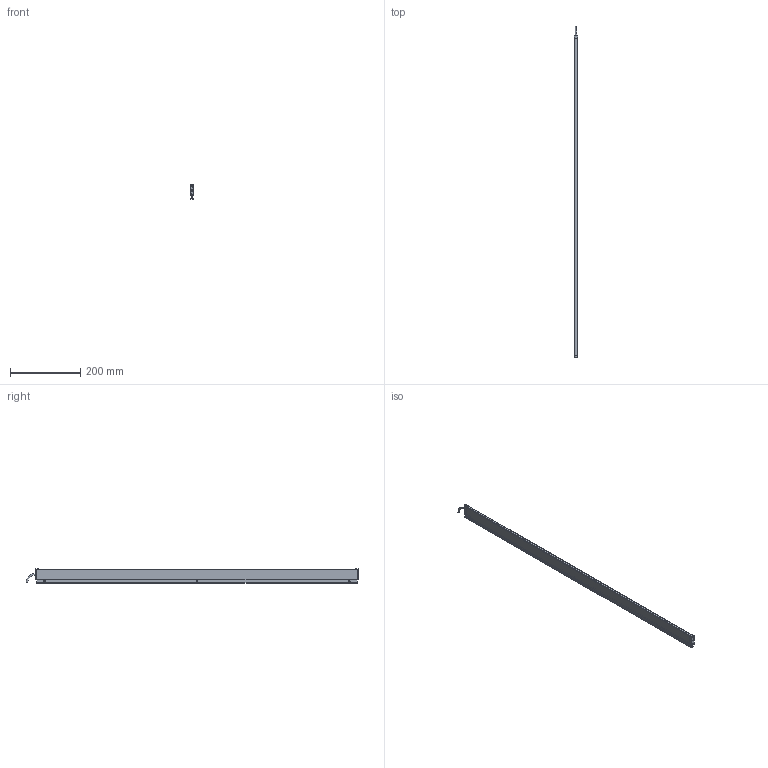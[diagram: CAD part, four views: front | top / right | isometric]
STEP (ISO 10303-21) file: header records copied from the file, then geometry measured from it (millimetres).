
FILE_DESCRIPTION (( 'STEP AP214' ), '1' );
FILE_NAME ('ILG-L-K1-0920mm.STEP', '2017-07-11T07:06:48', ( '' ), ( '' ), 'SwSTEP 2.0', 'SolidWorks 2016', '' );
FILE_SCHEMA (( 'AUTOMOTIVE_DESIGN' ));
Length unit declared in the file: millimetre
Products named in the file (1): ILG-L-K1-0920mm
Bounding box: 9 x 948.25 x 40.71 mm (x, y, z)
Volume: 131403.1 mm3; surface area: 182461 mm2
Topology: 9 solids, 9 shells, 430 faces, 1108 edges, 698 vertices
Faces by surface type: plane 205, cylinder 151, cone 64, torus 10
Entity records: 17910 total; most frequent: CARTESIAN_POINT 2385, DIRECTION 2328, ORIENTED_EDGE 2200, EDGE_CURVE 1100, AXIS2_PLACEMENT_3D 849, VERTEX_POINT 698, VECTOR 630, LINE 630
